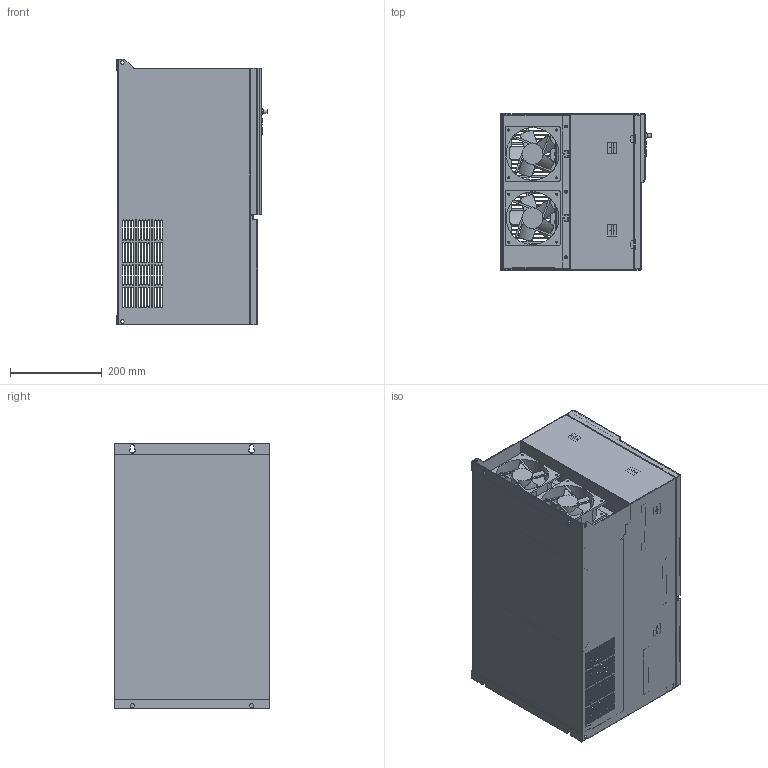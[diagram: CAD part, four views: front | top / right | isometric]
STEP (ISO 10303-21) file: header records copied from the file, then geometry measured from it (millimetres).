
FILE_DESCRIPTION(('STEP AP203'), '1');
FILE_NAME('Ïðåîáðàçîâàòåëü ÷àñòîòû _ MCI-G90_P110-4', '', ('UNSPECIFIED'), ('UNSPECIFIED'), 'C3D Converter', 'C3D Toolkit', '');
FILE_SCHEMA(('CONFIG_CONTROL_DESIGN'));
Length unit declared in the file: millimetre
Products named in the file (30): MCI-G90_P110-4; MCI-G90; MCI-MF-B; MCI-KP-B
Assembly tree (77 placements, depth 4):
  MCI-G90_P110-4
    MCI-G90
      MCI-G90
        MCI-G90
        MCI-G90  x2
      MCI-G90
        MCI-G90
        MCI-G90  x3
      MCI-G90
        MCI-G90
        MCI-G90  x14
      MCI-G90  x2
        MCI-G90
        MCI-G90
      MCI-G90  x2
        MCI-G90
        MCI-G90
      MCI-G90
      MCI-G90
      MCI-G90  x2
        MCI-G90
        MCI-G90
      MCI-G90
      MCI-G90  x7
      MCI-G90  x4
        MCI-G90
        MCI-G90
    MCI-G90
    MCI-G90
      MCI-G90
      MCI-G90  x2
    MCI-G90
    MCI-G90
      MCI-G90
      MCI-G90  x8
      MCI-G90  x2
    MCI-MF-B
    MCI-KP-B
Bounding box: 328.17 x 340 x 580 mm (x, y, z)
Volume: 1792389.5 mm3; surface area: 2535718.4 mm2
Topology: 74 solids, 80 shells, 2949 faces, 7722 edges, 4966 vertices
Faces by surface type: plane 1757, cylinder 1064, bspline 64, extrusion 48, torus 6, cone 6, revolution 2, sphere 2
Full cylindrical faces by diameter (mm): 1 x14, 1.7 x2, 2 x4, 2.7 x4, 4 x45, 4.5 x16, 5 x8, 5.4 x92, 5.5 x7, 7.9 x45, 8 x4, 12 x1, 22 x2, 45 x2, 56 x1, 92 x4, 115 x4
Entity records: 87113 total; most frequent: CARTESIAN_POINT 20501, ORIENTED_EDGE 12837, DIRECTION 12709, EDGE_CURVE 6420, VECTOR 4599, LINE 4551, VERTEX_POINT 4204, AXIS2_PLACEMENT_3D 4054
